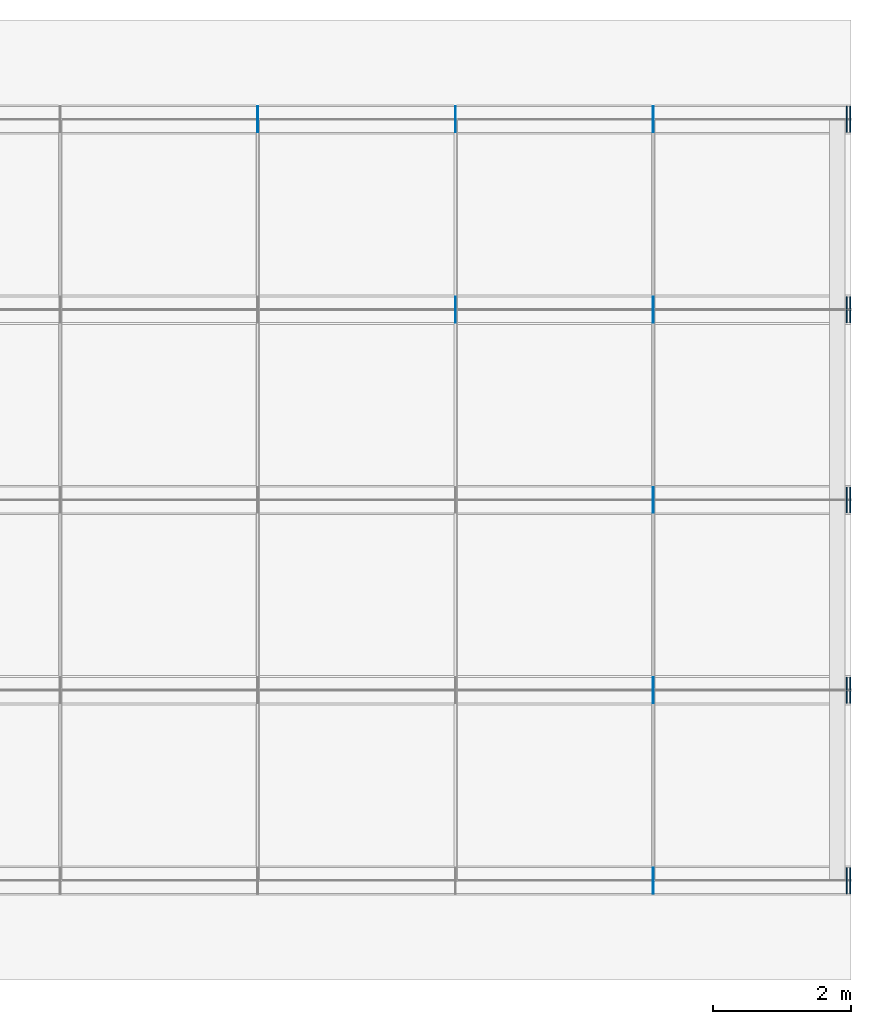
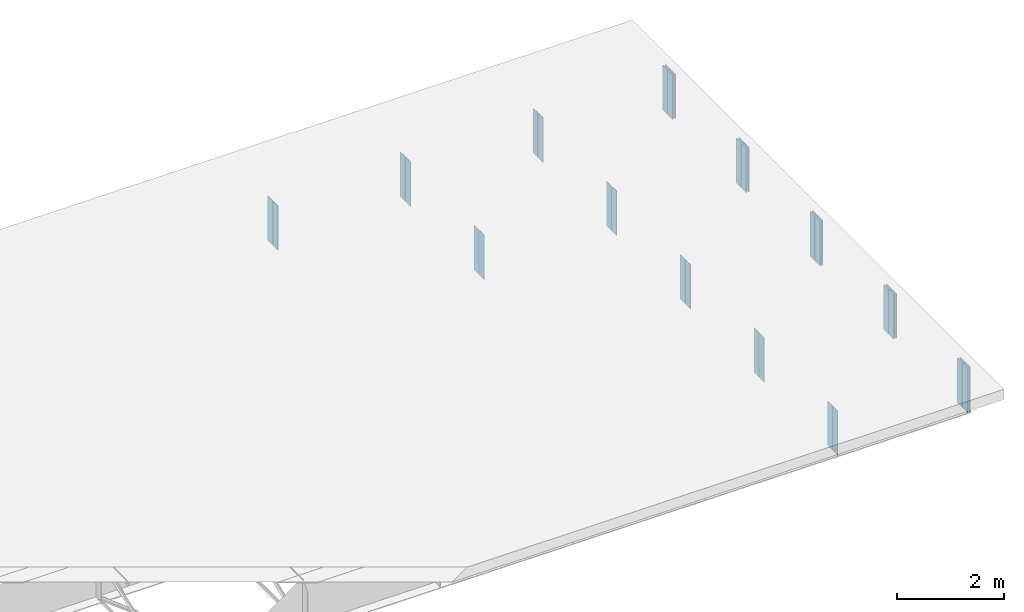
# One storey, part 12 of 12: 36 plates.
"""IFC4 building model written with IfcOpenShell, lengths in metres."""

from ifc_helpers import new_model, si_unit, frame, origin, origin_with_axes, origin_2d_with_axis, place, context, subcontext, project, spatial, rectangle, extrude, element, save


model = new_model("IFC4")

# Units and contexts
model_context = context("Model", 3, precision=1e-05, world=origin())
body_context = subcontext(model_context, "Body", "Model", "MODEL_VIEW")
ifc_project = project(units=[si_unit("LENGTHUNIT", "METRE"), si_unit("AREAUNIT", "SQUARE_METRE"), si_unit("VOLUMEUNIT", "CUBIC_METRE"), si_unit("PLANEANGLEUNIT", "RADIAN")], contexts=[model_context])

# Site, building, storey
site_placement = place(None, origin_with_axes())
site = spatial("IfcSite", under=ifc_project, at=site_placement, Name="Default Site")
building_placement = place(site_placement, origin_with_axes())
building = spatial("IfcBuilding", under=site, at=building_placement, Name="Bridge Structure")
storey_placement = place(building_placement, origin_with_axes())
storey = spatial("IfcBuildingStorey", under=building, at=storey_placement, Name="Superstructure")

# Plates
for number, where, z_axis, x_axis, name in (
    (1, (17.142, -5.4037500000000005, -0.507), (0.0, 0.0, 1.0), (1.0, 0.0, 0.0), "Intermediate Stiffener 1"),
    (2, (17.142, -5.59625, -0.507), (0.0, 0.0, 1.0), (1.0, 0.0, 0.0), "Intermediate Stiffener 1"),
):
    element("IfcPlate", number, at=place(storey_placement, frame(where, z_axis=z_axis, x_axis=x_axis)), inside=storey, Name=name, context=body_context, shape_type="SweptSolid", body=[
        extrude(rectangle(XDim=0.012, YDim=0.1825, at=origin_2d_with_axis()), origin_with_axes(), (0.0, 0.0, 1.0), 1.014),
    ])
for number, where, z_axis, x_axis, name in (
    (3, (19.990000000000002, -5.4037500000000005, -0.507), (0.0, 0.0, 1.0), (1.0, 0.0, 0.0), "End Stiffener 1"),
    (4, (19.990000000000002, -5.59625, -0.507), (0.0, 0.0, 1.0), (1.0, 0.0, 0.0), "End Stiffener 1"),
    (5, (19.94, -5.4037500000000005, -0.507), (0.0, 0.0, 1.0), (1.0, 0.0, 0.0), "End Stiffener 1"),
    (6, (19.94, -5.59625, -0.507), (0.0, 0.0, 1.0), (1.0, 0.0, 0.0), "End Stiffener 1"),
):
    element("IfcPlate", number, at=place(storey_placement, frame(where, z_axis=z_axis, x_axis=x_axis)), inside=storey, Name=name, context=body_context, shape_type="SweptSolid", body=[
        extrude(rectangle(XDim=0.02, YDim=0.1825, at=origin_2d_with_axis()), origin_with_axes(), (0.0, 0.0, 1.0), 1.014),
    ])
for number, where, z_axis, x_axis, name in (
    (7, (17.142, -2.65375, -0.507), (0.0, 0.0, 1.0), (1.0, 0.0, 0.0), "Intermediate Stiffener 2"),
    (8, (17.142, -2.84625, -0.507), (0.0, 0.0, 1.0), (1.0, 0.0, 0.0), "Intermediate Stiffener 2"),
):
    element("IfcPlate", number, at=place(storey_placement, frame(where, z_axis=z_axis, x_axis=x_axis)), inside=storey, Name=name, context=body_context, shape_type="SweptSolid", body=[
        extrude(rectangle(XDim=0.012, YDim=0.1825, at=origin_2d_with_axis()), origin_with_axes(), (0.0, 0.0, 1.0), 1.014),
    ])
for number, where, z_axis, x_axis, name in (
    (9, (19.990000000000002, -2.65375, -0.507), (0.0, 0.0, 1.0), (1.0, 0.0, 0.0), "End Stiffener 2"),
    (10, (19.990000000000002, -2.84625, -0.507), (0.0, 0.0, 1.0), (1.0, 0.0, 0.0), "End Stiffener 2"),
    (11, (19.94, -2.65375, -0.507), (0.0, 0.0, 1.0), (1.0, 0.0, 0.0), "End Stiffener 2"),
    (12, (19.94, -2.84625, -0.507), (0.0, 0.0, 1.0), (1.0, 0.0, 0.0), "End Stiffener 2"),
):
    element("IfcPlate", number, at=place(storey_placement, frame(where, z_axis=z_axis, x_axis=x_axis)), inside=storey, Name=name, context=body_context, shape_type="SweptSolid", body=[
        extrude(rectangle(XDim=0.02, YDim=0.1825, at=origin_2d_with_axis()), origin_with_axes(), (0.0, 0.0, 1.0), 1.014),
    ])
for number, where, z_axis, x_axis, name in (
    (13, (17.142, 0.09625, -0.507), (0.0, 0.0, 1.0), (1.0, 0.0, 0.0), "Intermediate Stiffener 3"),
    (14, (17.142, -0.09625, -0.507), (0.0, 0.0, 1.0), (1.0, 0.0, 0.0), "Intermediate Stiffener 3"),
):
    element("IfcPlate", number, at=place(storey_placement, frame(where, z_axis=z_axis, x_axis=x_axis)), inside=storey, Name=name, context=body_context, shape_type="SweptSolid", body=[
        extrude(rectangle(XDim=0.012, YDim=0.1825, at=origin_2d_with_axis()), origin_with_axes(), (0.0, 0.0, 1.0), 1.014),
    ])
for number, where, z_axis, x_axis, name in (
    (15, (19.990000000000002, 0.09625, -0.507), (0.0, 0.0, 1.0), (1.0, 0.0, 0.0), "End Stiffener 3"),
    (16, (19.990000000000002, -0.09625, -0.507), (0.0, 0.0, 1.0), (1.0, 0.0, 0.0), "End Stiffener 3"),
    (17, (19.94, 0.09625, -0.507), (0.0, 0.0, 1.0), (1.0, 0.0, 0.0), "End Stiffener 3"),
    (18, (19.94, -0.09625, -0.507), (0.0, 0.0, 1.0), (1.0, 0.0, 0.0), "End Stiffener 3"),
):
    element("IfcPlate", number, at=place(storey_placement, frame(where, z_axis=z_axis, x_axis=x_axis)), inside=storey, Name=name, context=body_context, shape_type="SweptSolid", body=[
        extrude(rectangle(XDim=0.02, YDim=0.1825, at=origin_2d_with_axis()), origin_with_axes(), (0.0, 0.0, 1.0), 1.014),
    ])
for number, where, z_axis, x_axis, name in (
    (19, (14.285, 2.84625, -0.507), (0.0, 0.0, 1.0), (1.0, 0.0, 0.0), "Intermediate Stiffener 4"),
    (20, (14.285, 2.65375, -0.507), (0.0, 0.0, 1.0), (1.0, 0.0, 0.0), "Intermediate Stiffener 4"),
    (21, (17.142, 2.84625, -0.507), (0.0, 0.0, 1.0), (1.0, 0.0, 0.0), "Intermediate Stiffener 4"),
    (22, (17.142, 2.65375, -0.507), (0.0, 0.0, 1.0), (1.0, 0.0, 0.0), "Intermediate Stiffener 4"),
):
    element("IfcPlate", number, at=place(storey_placement, frame(where, z_axis=z_axis, x_axis=x_axis)), inside=storey, Name=name, context=body_context, shape_type="SweptSolid", body=[
        extrude(rectangle(XDim=0.012, YDim=0.1825, at=origin_2d_with_axis()), origin_with_axes(), (0.0, 0.0, 1.0), 1.014),
    ])
for number, where, z_axis, x_axis, name in (
    (23, (19.990000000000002, 2.84625, -0.507), (0.0, 0.0, 1.0), (1.0, 0.0, 0.0), "End Stiffener 4"),
    (24, (19.990000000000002, 2.65375, -0.507), (0.0, 0.0, 1.0), (1.0, 0.0, 0.0), "End Stiffener 4"),
    (25, (19.94, 2.84625, -0.507), (0.0, 0.0, 1.0), (1.0, 0.0, 0.0), "End Stiffener 4"),
    (26, (19.94, 2.65375, -0.507), (0.0, 0.0, 1.0), (1.0, 0.0, 0.0), "End Stiffener 4"),
):
    element("IfcPlate", number, at=place(storey_placement, frame(where, z_axis=z_axis, x_axis=x_axis)), inside=storey, Name=name, context=body_context, shape_type="SweptSolid", body=[
        extrude(rectangle(XDim=0.02, YDim=0.1825, at=origin_2d_with_axis()), origin_with_axes(), (0.0, 0.0, 1.0), 1.014),
    ])
for number, where, z_axis, x_axis, name in (
    (27, (11.428, 5.59625, -0.507), (0.0, 0.0, 1.0), (1.0, 0.0, 0.0), "Intermediate Stiffener 5"),
    (28, (11.428, 5.4037500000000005, -0.507), (0.0, 0.0, 1.0), (1.0, 0.0, 0.0), "Intermediate Stiffener 5"),
    (29, (14.285, 5.59625, -0.507), (0.0, 0.0, 1.0), (1.0, 0.0, 0.0), "Intermediate Stiffener 5"),
    (30, (14.285, 5.4037500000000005, -0.507), (0.0, 0.0, 1.0), (1.0, 0.0, 0.0), "Intermediate Stiffener 5"),
    (31, (17.142, 5.59625, -0.507), (0.0, 0.0, 1.0), (1.0, 0.0, 0.0), "Intermediate Stiffener 5"),
    (32, (17.142, 5.4037500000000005, -0.507), (0.0, 0.0, 1.0), (1.0, 0.0, 0.0), "Intermediate Stiffener 5"),
):
    element("IfcPlate", number, at=place(storey_placement, frame(where, z_axis=z_axis, x_axis=x_axis)), inside=storey, Name=name, context=body_context, shape_type="SweptSolid", body=[
        extrude(rectangle(XDim=0.012, YDim=0.1825, at=origin_2d_with_axis()), origin_with_axes(), (0.0, 0.0, 1.0), 1.014),
    ])
for number, where, z_axis, x_axis, name in (
    (33, (19.990000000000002, 5.59625, -0.507), (0.0, 0.0, 1.0), (1.0, 0.0, 0.0), "End Stiffener 5"),
    (34, (19.990000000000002, 5.4037500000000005, -0.507), (0.0, 0.0, 1.0), (1.0, 0.0, 0.0), "End Stiffener 5"),
    (35, (19.94, 5.59625, -0.507), (0.0, 0.0, 1.0), (1.0, 0.0, 0.0), "End Stiffener 5"),
    (36, (19.94, 5.4037500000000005, -0.507), (0.0, 0.0, 1.0), (1.0, 0.0, 0.0), "End Stiffener 5"),
):
    element("IfcPlate", number, at=place(storey_placement, frame(where, z_axis=z_axis, x_axis=x_axis)), inside=storey, Name=name, context=body_context, shape_type="SweptSolid", body=[
        extrude(rectangle(XDim=0.02, YDim=0.1825, at=origin_2d_with_axis()), origin_with_axes(), (0.0, 0.0, 1.0), 1.014),
    ])

save(model, "model.ifc")
